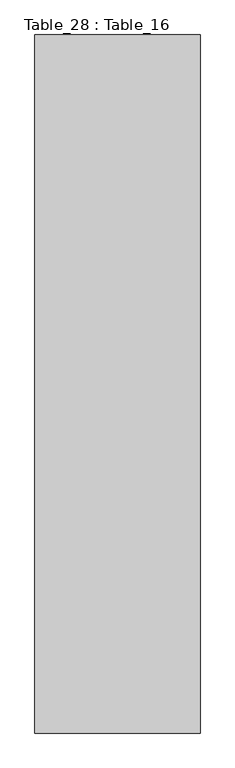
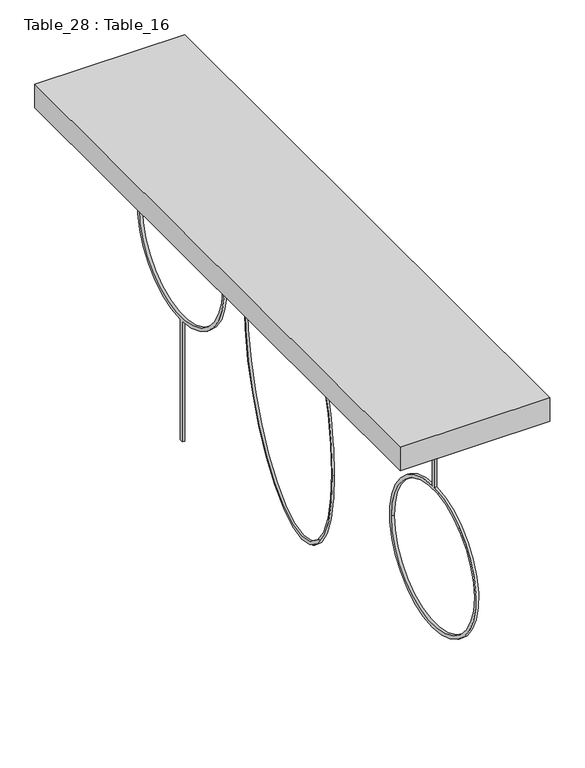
"""IFC4 building model written with IfcOpenShell, lengths in millimetres: furniture geometry, Table_28 : Table_16."""

from ifc_helpers import new_model, si_unit, point, frame, frame_2d, origin, place, context, project, spatial, polyline, circle_curve, trimmed, segment, composite_curve, outline, extrude, source, transform, mapped, element, save


def table_28_table_16_93e7e2a0(model_context):
    return source(origin(), model_context, "Body", "SweptSolid", [
        extrude(outline(composite_curve([segment(trimmed(circle_curve(frame_2d((0.0, -407.5)), 407.5), [point((0.0, -815.0))], [point((0.0, 0.0))], False, "CARTESIAN"), True, "CONTINUOUS"), segment(trimmed(circle_curve(frame_2d((0.0, -407.5)), 407.5), [point((0.0, 0.0))], [point((0.0, -815.0))], False, "CARTESIAN"), True, "CONTINUOUS")], self_intersect=False), holes=[composite_curve([segment(trimmed(circle_curve(frame_2d((0.0, -407.5)), 397.5), [point((0.0, -805.0))], [point((0.0, -9.9999999))], True, "CARTESIAN"), True, "CONTINUOUS"), segment(trimmed(circle_curve(frame_2d((0.0, -407.5)), 397.5), [point((0.0, -9.9999999))], [point((0.0, -805.0))], True, "CARTESIAN"), True, "CONTINUOUS")], self_intersect=False)]), frame((-7397.0807813, 2581.1574657, 3807.5), z_axis=(-0.970295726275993, 0.24192189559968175, 0.0), x_axis=(0.0, 0.0, 1.0)), (0.0, 0.0, 1.0), 5.6470547),
        extrude(outline(composite_curve([segment(trimmed(circle_curve(frame_2d((2623.5788766, 3994.8010885)), 220.0), [point((2616.0788766, 3774.9289665))], [point((2626.0788766, 3774.8152935))], False, "CARTESIAN"), True, "CONTINUOUS"), segment(polyline([(2626.0788766, 3774.8152935), (2626.0788766, 3400.0), (2616.0788766, 3400.0), (2616.0788766, 3774.9289665)]), True, "CONTINUOUS")], self_intersect=False), holes=[composite_curve([segment(trimmed(circle_curve(frame_2d((2623.5788766, 3994.8010885)), 210.0), [point((2413.5788766, 3994.8010885))], [point((2833.5788766, 3994.8010885))], True, "CARTESIAN"), True, "CONTINUOUS"), segment(trimmed(circle_curve(frame_2d((2623.5788766, 3994.8010885)), 210.0), [point((2833.5788766, 3994.8010885))], [point((2413.5788766, 3994.8010885))], True, "CARTESIAN"), True, "CONTINUOUS")], self_intersect=False)]), frame((-7564.8469732, 0.0, 0.0), z_axis=(1.0, 0.0, 0.0), x_axis=(0.0, 1.0, 0.0)), (0.0, 0.0, 1.0), 7.9748517),
        extrude(outline(composite_curve([segment(polyline([(1575.7348095, 3839.8721219), (1575.7348095, 4214.8010885), (1585.7348095, 4214.8010885), (1585.7348095, 3839.985795)]), True, "CONTINUOUS"), segment(trimmed(circle_curve(frame_2d((1583.2348095, 3620.0)), 220.0), [point((1585.7348095, 3839.985795))], [point((1575.7348095, 3839.8721219))], False, "CARTESIAN"), True, "CONTINUOUS")], self_intersect=False), holes=[composite_curve([segment(trimmed(circle_curve(frame_2d((1583.2348095, 3620.0)), 210.0), [point((1373.2348095, 3620.0))], [point((1793.2348095, 3620.0))], True, "CARTESIAN"), True, "CONTINUOUS"), segment(trimmed(circle_curve(frame_2d((1583.2348095, 3620.0)), 210.0), [point((1793.2348095, 3620.0))], [point((1373.2348095, 3620.0))], True, "CARTESIAN"), True, "CONTINUOUS")], self_intersect=False)]), frame((-7424.8469732, 0.0, 0.0), z_axis=(1.0, 0.0, 0.0), x_axis=(0.0, 1.0, 0.0)), (0.0, 0.0, 1.0), 7.9748517),
        extrude(outline(polyline([(-7290.5019919, 3079.4695359), (-7290.5019919, 1219.4695359), (-7730.5019919, 1219.4695359), (-7730.5019919, 3079.4695359), (-7290.5019919, 3079.4695359)])), frame((0.0, 0.0, 4214.8010885), z_axis=(0.0, 0.0, 1.0), x_axis=(1.0, 0.0, 0.0)), (0.0, 0.0, 1.0), 72.9828117),
    ])


if __name__ == "__main__":
    model = new_model("IFC4")
    model_context = context("Model", 3, world=origin())
    ifc_project = project(units=[si_unit("LENGTHUNIT", "METRE", prefix="MILLI")], contexts=[model_context])
    site = spatial("IfcSite", under=ifc_project)
    building = spatial("IfcBuilding", under=site)
    placement = place(None, origin())
    table_28_table_16_shape = table_28_table_16_93e7e2a0(model_context)
    element("IfcFurniture", 1, ObjectType="Table_28 : Table_16", at=placement, inside=building, context=model_context, shape_type="MappedRepresentation", body=[
        mapped(table_28_table_16_shape, transform((0.0, 0.0, 0.0), x_axis=(1.0, 0.0, 0.0), y_axis=(0.0, 1.0, 0.0), z_axis=(0.0, 0.0, 1.0))),
    ])
    save(model, "model.ifc")
